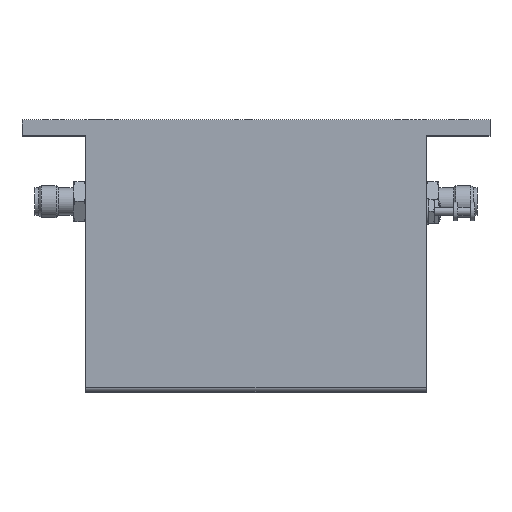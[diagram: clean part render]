
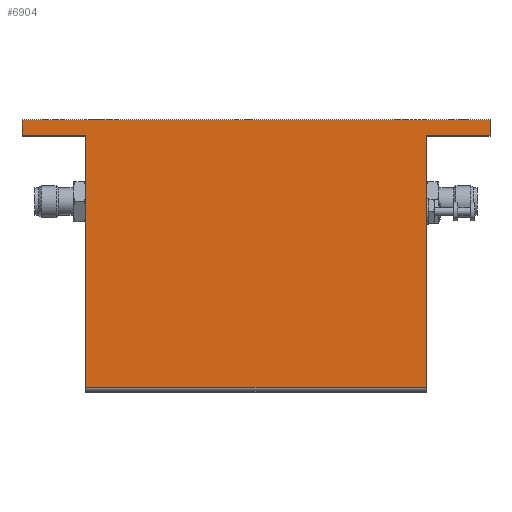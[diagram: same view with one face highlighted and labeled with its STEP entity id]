
A CAD part, top view. The second image highlights one B-rep face of the part: STEP entity #6904.
In plain terms, the highlighted planar face has unit normal (0, 0, 1).
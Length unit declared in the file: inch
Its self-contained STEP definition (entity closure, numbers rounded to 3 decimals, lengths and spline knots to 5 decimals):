
#43 = EDGE_CURVE ( 'NONE', #5658, #13808, #3927, .T. ) ;
#468 = DIRECTION ( 'NONE',  ( 0., 1., 0. ) ) ;
#535 = ORIENTED_EDGE ( 'NONE', *, *, #8915, .F. ) ;
#621 = ORIENTED_EDGE ( 'NONE', *, *, #12443, .T. ) ;
#622 = LINE ( 'NONE', #862, #15016 ) ;
#657 = CARTESIAN_POINT ( 'NONE',  ( 4.73037, -0.49, 1.625 ) ) ;
#862 = CARTESIAN_POINT ( 'NONE',  ( -1.83, 0.635, 1.625 ) ) ;
#1097 = DIRECTION ( 'NONE',  ( 1., 0., 0. ) ) ;
#1273 = CARTESIAN_POINT ( 'NONE',  ( -1.83, 0.635, 1.625 ) ) ;
#1672 = ORIENTED_EDGE ( 'NONE', *, *, #14988, .T. ) ;
#2185 = AXIS2_PLACEMENT_3D ( 'NONE', #657, #7375, #468 ) ;
#2190 = VECTOR ( 'NONE', #8438, 39.37008 ) ;
#2241 = EDGE_LOOP ( 'NONE', ( #12364, #18022, #8160, #5164, #6908, #621, #1672, #535 ) ) ;
#2654 = DIRECTION ( 'NONE',  ( 0., 1., 0. ) ) ;
#3529 = CARTESIAN_POINT ( 'NONE',  ( 1.33, -0.49, 1.625 ) ) ;
#3765 = LINE ( 'NONE', #14984, #14478 ) ;
#3842 = LINE ( 'NONE', #3529, #5991 ) ;
#3927 = LINE ( 'NONE', #12562, #2190 ) ;
#4744 = VERTEX_POINT ( 'NONE', #7688 ) ;
#4879 = CARTESIAN_POINT ( 'NONE',  ( -1.33, 0.51, 1.625 ) ) ;
#4909 = CARTESIAN_POINT ( 'NONE',  ( -1.83, 0.51, 1.625 ) ) ;
#5164 = ORIENTED_EDGE ( 'NONE', *, *, #10503, .F. ) ;
#5269 = VERTEX_POINT ( 'NONE', #4879 ) ;
#5383 = LINE ( 'NONE', #4909, #15440 ) ;
#5658 = VERTEX_POINT ( 'NONE', #11677 ) ;
#5991 = VECTOR ( 'NONE', #11919, 39.37008 ) ;
#6406 = EDGE_CURVE ( 'NONE', #17785, #5658, #3842, .T. ) ;
#6883 = CARTESIAN_POINT ( 'NONE',  ( 1.83, 0.635, 1.625 ) ) ;
#6904 = ADVANCED_FACE ( 'NONE', ( #11160 ), #14566, .T. ) ;
#6908 = ORIENTED_EDGE ( 'NONE', *, *, #15022, .F. ) ;
#7039 = CARTESIAN_POINT ( 'NONE',  ( 1.83, 0.51, 1.625 ) ) ;
#7186 = LINE ( 'NONE', #18025, #12906 ) ;
#7375 = DIRECTION ( 'NONE',  ( 0., 0., 1. ) ) ;
#7476 = CARTESIAN_POINT ( 'NONE',  ( 1.83, 0.635, 1.625 ) ) ;
#7593 = VERTEX_POINT ( 'NONE', #7476 ) ;
#7688 = CARTESIAN_POINT ( 'NONE',  ( -1.83, 0.51, 1.625 ) ) ;
#7809 = VECTOR ( 'NONE', #15898, 39.37008 ) ;
#7949 = VECTOR ( 'NONE', #17969, 39.37008 ) ;
#8160 = ORIENTED_EDGE ( 'NONE', *, *, #43, .T. ) ;
#8438 = DIRECTION ( 'NONE',  ( 1., 0., 0. ) ) ;
#8915 = EDGE_CURVE ( 'NONE', #9481, #5269, #7186, .T. ) ;
#9082 = CARTESIAN_POINT ( 'NONE',  ( -1.83, 0.635, 1.625 ) ) ;
#9481 = VERTEX_POINT ( 'NONE', #10825 ) ;
#10302 = DIRECTION ( 'NONE',  ( 1., 0., 0. ) ) ;
#10503 = EDGE_CURVE ( 'NONE', #7593, #13808, #10769, .T. ) ;
#10769 = LINE ( 'NONE', #6883, #7949 ) ;
#10825 = CARTESIAN_POINT ( 'NONE',  ( -1.33, -1.4575, 1.625 ) ) ;
#11160 = FACE_OUTER_BOUND ( 'NONE', #2241, .T. ) ;
#11677 = CARTESIAN_POINT ( 'NONE',  ( 1.33, 0.51, 1.625 ) ) ;
#11919 = DIRECTION ( 'NONE',  ( 0., 1., 0. ) ) ;
#12076 = VERTEX_POINT ( 'NONE', #1273 ) ;
#12364 = ORIENTED_EDGE ( 'NONE', *, *, #17304, .F. ) ;
#12443 = EDGE_CURVE ( 'NONE', #12076, #4744, #17455, .T. ) ;
#12562 = CARTESIAN_POINT ( 'NONE',  ( -1.83, 0.51, 1.625 ) ) ;
#12906 = VECTOR ( 'NONE', #2654, 39.37008 ) ;
#13808 = VERTEX_POINT ( 'NONE', #7039 ) ;
#14478 = VECTOR ( 'NONE', #17845, 39.37008 ) ;
#14566 = PLANE ( 'NONE',  #2185 ) ;
#14984 = CARTESIAN_POINT ( 'NONE',  ( 4.73037, -1.4575, 1.625 ) ) ;
#14988 = EDGE_CURVE ( 'NONE', #4744, #5269, #5383, .T. ) ;
#15016 = VECTOR ( 'NONE', #1097, 39.37008 ) ;
#15022 = EDGE_CURVE ( 'NONE', #12076, #7593, #622, .T. ) ;
#15440 = VECTOR ( 'NONE', #10302, 39.37008 ) ;
#15898 = DIRECTION ( 'NONE',  ( 0., -1., 0. ) ) ;
#16004 = CARTESIAN_POINT ( 'NONE',  ( 1.33, -1.4575, 1.625 ) ) ;
#17304 = EDGE_CURVE ( 'NONE', #17785, #9481, #3765, .T. ) ;
#17455 = LINE ( 'NONE', #9082, #7809 ) ;
#17785 = VERTEX_POINT ( 'NONE', #16004 ) ;
#17845 = DIRECTION ( 'NONE',  ( -1., 0., 0. ) ) ;
#17969 = DIRECTION ( 'NONE',  ( 0., -1., 0. ) ) ;
#18022 = ORIENTED_EDGE ( 'NONE', *, *, #6406, .T. ) ;
#18025 = CARTESIAN_POINT ( 'NONE',  ( -1.33, -0.49, 1.625 ) ) ;
